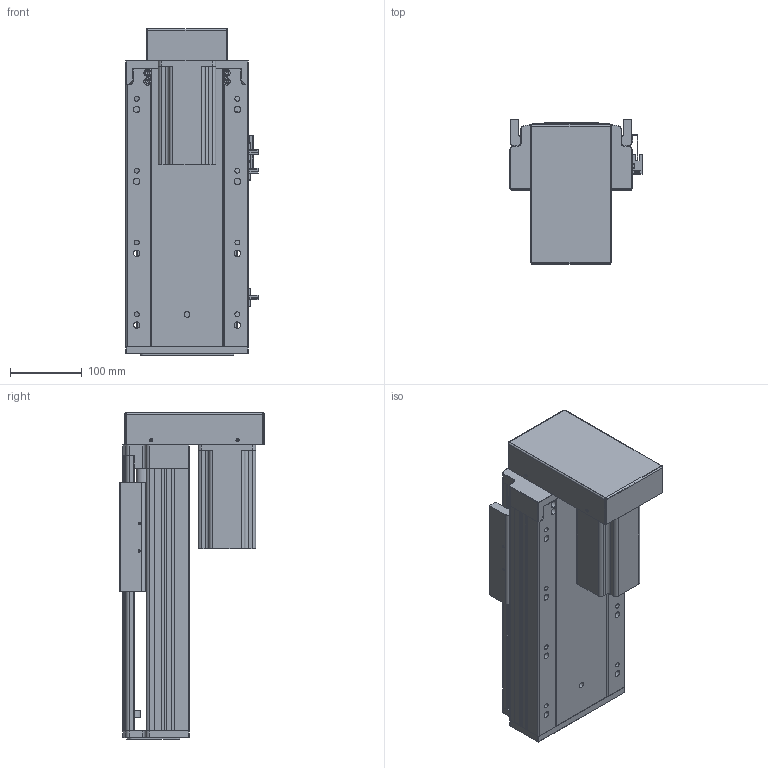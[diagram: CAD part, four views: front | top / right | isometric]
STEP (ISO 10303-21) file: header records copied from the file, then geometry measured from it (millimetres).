
FILE_DESCRIPTION (( 'STEP AP203' ), '1' );
FILE_NAME ('RY170-L2510-300-BK.SLDASM_150.step', '2021-03-12T08:57:26', ( '盈信电脑' ), ( '东莞市道滘镇水果街19号' ), 'SwSTEP 2.0', 'SolidWorks 2012', '' );
FILE_SCHEMA (( 'CONFIG_CONTROL_DESIGN' ));
Length unit declared in the file: millimetre
Products named in the file (14): RY170狟殏萇儂欶; RY170-L2510-300-BK.SLDASM_150; RY170-狟殏750W萇儂傷; 怢湛750W萇儂ㄗ80遺ㄘ; RY170-狟殏萇儂假蚾啣; 滅袉蝶18-20; RY170转折电机端支撑座(7004); 滅袉蝶18-10; RY170綴裔啣; RY170外置感应片(200共用）; 覜茼ん672; RY170-300倰第菁釱-BK_150; 改造-RY170铝滑块25丝杆螺母; RY170-300倰第裔啣-BK_150
Assembly tree (15 placements, depth 3):
  RY170-L2510-300-BK.SLDASM_150
    RY170-300倰第菁釱-BK_150
    改造-RY170铝滑块25丝杆螺母
    RY170-300倰第裔啣-BK_150
    RY170綴裔啣
    覜茼ん672  x3
    RY170外置感应片(200共用）
    滅袉蝶18-20
    滅袉蝶18-10
    RY170转折电机端支撑座(7004)
    RY170-狟殏750W萇儂傷
      RY170-狟殏萇儂假蚾啣
      RY170狟殏萇儂欶
      怢湛750W萇儂ㄗ80遺ㄘ
Bounding box: 183.7 x 200.8 x 454.5 mm (x, y, z)
Volume: 3650318.4 mm3; surface area: 981125.7 mm2
Topology: 14 solids, 14 shells, 1960 faces, 5565 edges, 3600 vertices
Faces by surface type: plane 1074, cylinder 741, cone 126, bspline 19
Entity records: 62194 total; most frequent: CARTESIAN_POINT 14330, ORIENTED_EDGE 9970, DIRECTION 9271, EDGE_CURVE 4985, VERTEX_POINT 3280, VECTOR 3233, LINE 3233, AXIS2_PLACEMENT_3D 3019
